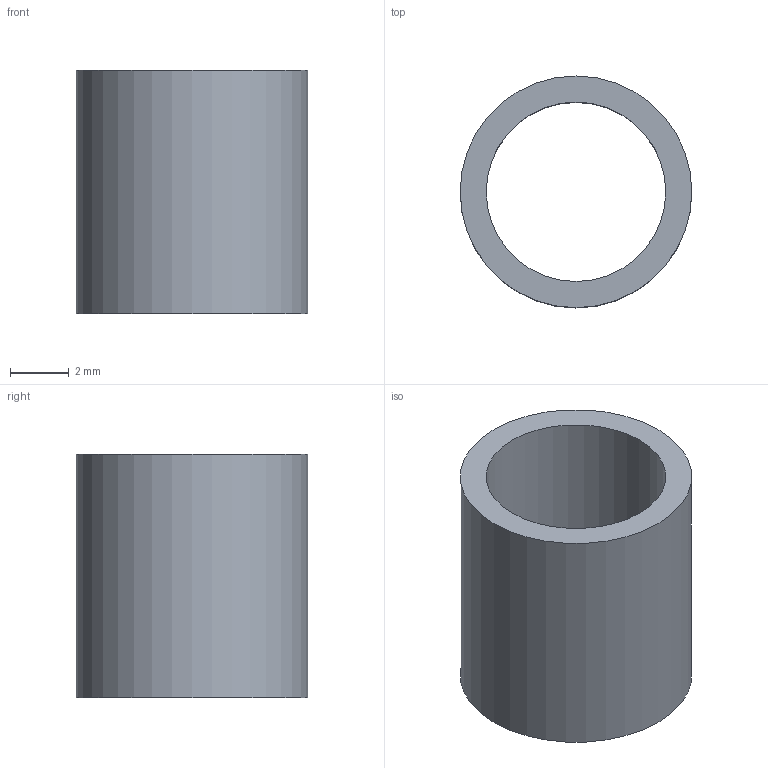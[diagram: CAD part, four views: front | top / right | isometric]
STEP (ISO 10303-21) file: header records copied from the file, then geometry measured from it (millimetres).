
FILE_DESCRIPTION(('Open CASCADE Model'),'2;1');
FILE_NAME('Open CASCADE Shape Model','2026-11-14T12:29:50',('Author'),( 'Open CASCADE'),'Open CASCADE STEP processor 8.0','Open CASCADE 8.0' ,'Unknown');
FILE_SCHEMA(('AUTOMOTIVE_DESIGN { 1 0 10303 214 1 1 1 1 }'));
Length unit declared in the file: millimetre
Products named in the file (1): Open CASCADE STEP translator 8.0 2
Bounding box: 7.9 x 7.9 x 8.3 mm (x, y, z)
Volume: 162.7 mm3; surface area: 404.8 mm2
Topology: 1 solids, 1 shells, 4 faces, 6 edges, 4 vertices
Faces by surface type: cylinder 2, plane 2
Full cylindrical faces by diameter (mm): 6.12 x1, 7.9 x1
Entity records: 186 total; most frequent: DIRECTION 32, CARTESIAN_POINT 27, ORIENTED_EDGE 12, PCURVE 12, DEFINITIONAL_REPRESENTATION 12, LINE 10, VECTOR 10, AXIS2_PLACEMENT_3D 9
